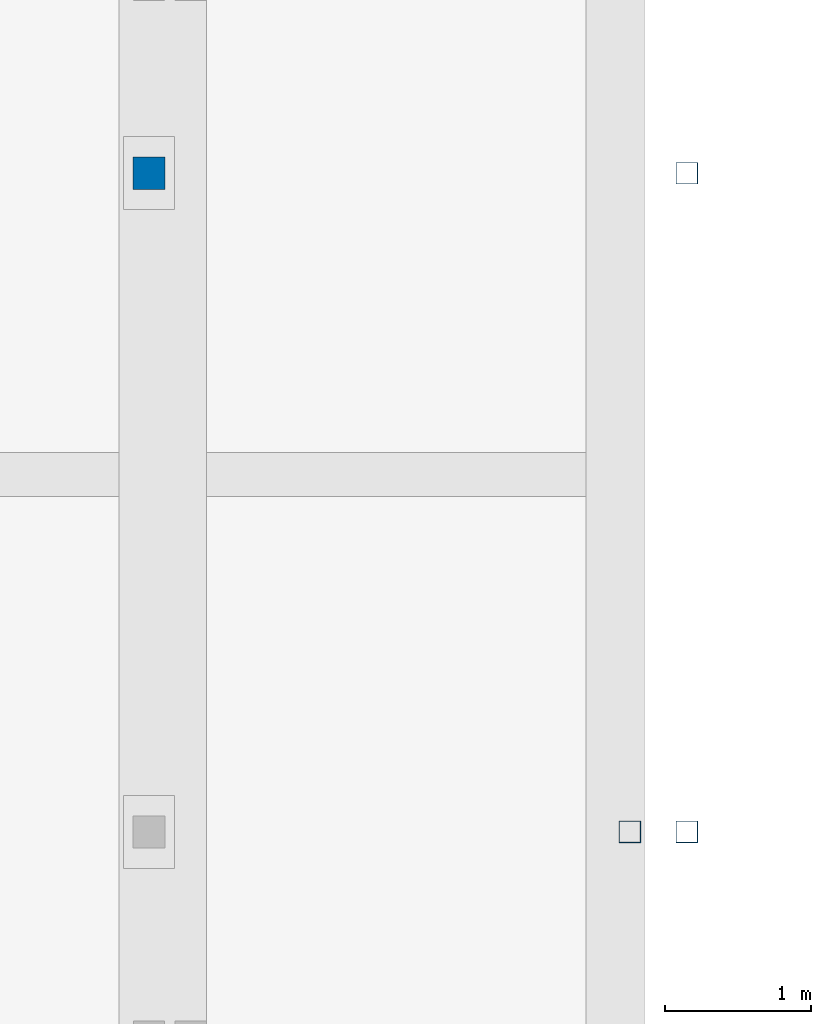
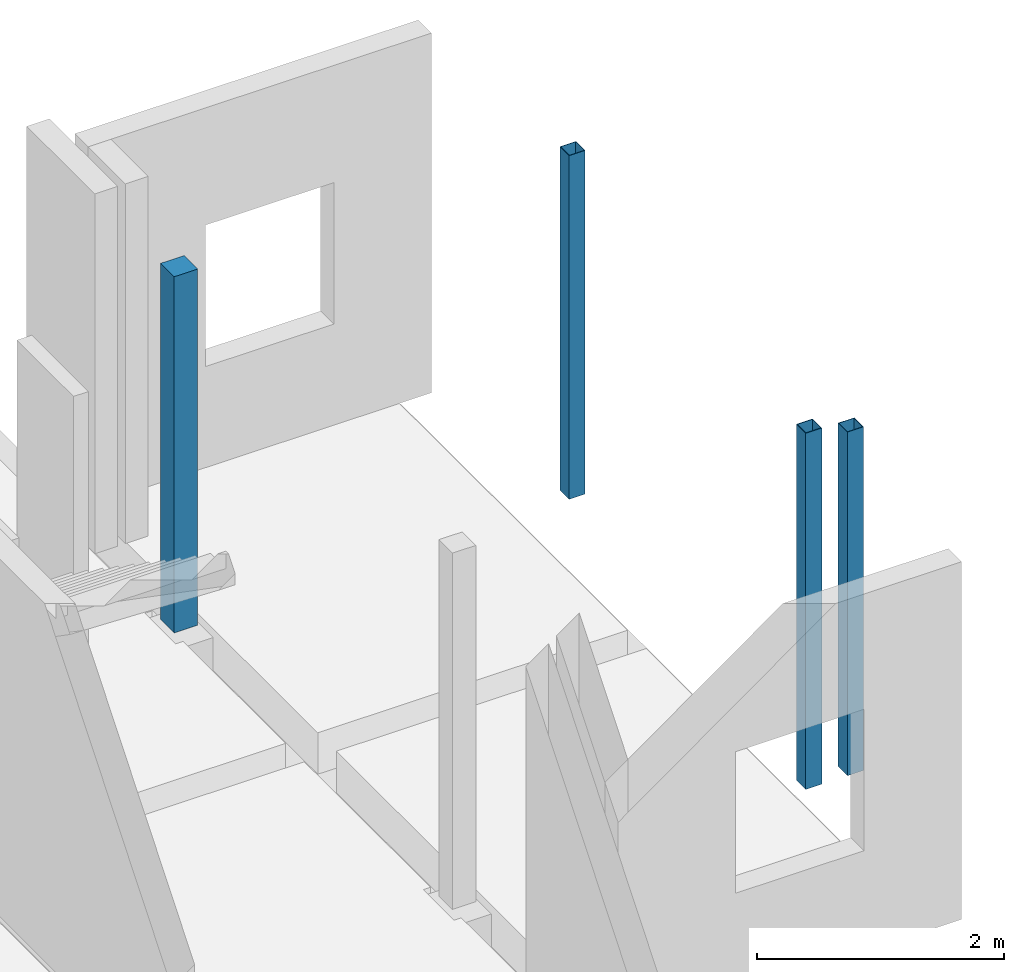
# One storey, part 8 of 17: 4 columns.
"""IFC2X3 building model written with IfcOpenShell, lengths in millimetres."""

from ifc_helpers import new_model, entity, si_unit, converted_unit, derived_unit, direction, frame, frame_2d, origin, place, context, subcontext, project, spatial, polyline, rectangle, outline, extrude, source, transform, mapped, material, material_list, type_object, type_shapes, element, save


model = new_model("IFC2X3")

# Units and contexts
model_context = context("Model", 3, precision=0.01, world=origin(), true_north=direction((6.123031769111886e-17, 1.0)))
body_context = subcontext(model_context, "Body", "Model", "MODEL_VIEW")
ifc_project = project(units=[si_unit("LENGTHUNIT", "METRE", prefix="MILLI"), si_unit("AREAUNIT", "SQUARE_METRE", prefix="MILLI"), si_unit("VOLUMEUNIT", "CUBIC_METRE"), converted_unit("PLANEANGLEUNIT", "DEGREE", entity("IfcPlaneAngleMeasure", 0.017453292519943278), si_unit("PLANEANGLEUNIT", "RADIAN"), dimensions=[0, 0, 0, 0, 0, 0, 0]), si_unit("MASSUNIT", "GRAM", prefix="KILO"), derived_unit("MASSDENSITYUNIT", [(si_unit("MASSUNIT", "GRAM", prefix="KILO"), 1), (si_unit("LENGTHUNIT", "METRE"), -3)]), derived_unit("IONCONCENTRATIONUNIT", [(si_unit("MASSUNIT", "GRAM", prefix="KILO"), 1), (si_unit("LENGTHUNIT", "METRE"), -3)]), derived_unit("MOMENTOFINERTIAUNIT", [(si_unit("LENGTHUNIT", "METRE"), 4)]), si_unit("TIMEUNIT", "SECOND"), si_unit("FREQUENCYUNIT", "HERTZ"), si_unit("THERMODYNAMICTEMPERATUREUNIT", "DEGREE_CELSIUS"), derived_unit("THERMALTRANSMITTANCEUNIT", [(si_unit("MASSUNIT", "GRAM", prefix="KILO"), 1), (si_unit("THERMODYNAMICTEMPERATUREUNIT", "KELVIN"), -1), (si_unit("TIMEUNIT", "SECOND"), -3)]), derived_unit("THERMALCONDUCTANCEUNIT", [(si_unit("MASSUNIT", "GRAM", prefix="KILO"), 1), (si_unit("THERMODYNAMICTEMPERATUREUNIT", "KELVIN"), -1), (si_unit("TIMEUNIT", "SECOND"), -3), (si_unit("LENGTHUNIT", "METRE"), 1)]), derived_unit("VOLUMETRICFLOWRATEUNIT", [(si_unit("LENGTHUNIT", "METRE", prefix="DECI"), 3), (si_unit("TIMEUNIT", "SECOND"), -1)]), derived_unit("MASSFLOWRATEUNIT", [(si_unit("MASSUNIT", "GRAM", prefix="KILO"), 1), (si_unit("TIMEUNIT", "SECOND"), -1)]), derived_unit("ROTATIONALFREQUENCYUNIT", [(si_unit("TIMEUNIT", "SECOND"), -1)]), si_unit("ELECTRICCURRENTUNIT", "AMPERE"), si_unit("ELECTRICVOLTAGEUNIT", "VOLT"), si_unit("POWERUNIT", "WATT"), si_unit("FORCEUNIT", "NEWTON", prefix="KILO"), si_unit("ILLUMINANCEUNIT", "LUX"), si_unit("LUMINOUSFLUXUNIT", "LUMEN"), si_unit("LUMINOUSINTENSITYUNIT", "CANDELA"), si_unit("ENERGYUNIT", "JOULE"), derived_unit("USERDEFINED", [(si_unit("MASSUNIT", "GRAM", prefix="KILO"), -1), (si_unit("LENGTHUNIT", "METRE"), -2), (si_unit("TIMEUNIT", "SECOND"), 3), (si_unit("LUMINOUSFLUXUNIT", "LUMEN"), 1)]), derived_unit("USERDEFINED", [(si_unit("MASSUNIT", "GRAM", prefix="KILO"), 1), (si_unit("TIMEUNIT", "SECOND"), -3), (si_unit("LENGTHUNIT", "METRE"), 3), (si_unit("ELECTRICCURRENTUNIT", "AMPERE"), -2)]), derived_unit("SOUNDPOWERUNIT", [(si_unit("MASSUNIT", "GRAM", prefix="KILO"), 1), (si_unit("TIMEUNIT", "SECOND"), -3), (si_unit("LENGTHUNIT", "METRE"), 2)]), derived_unit("SOUNDPRESSUREUNIT", [(si_unit("MASSUNIT", "GRAM", prefix="KILO"), 1), (si_unit("LENGTHUNIT", "METRE"), -1), (si_unit("TIMEUNIT", "SECOND"), -2)]), derived_unit("LINEARVELOCITYUNIT", [(si_unit("LENGTHUNIT", "METRE"), 1), (si_unit("TIMEUNIT", "SECOND"), -1)]), si_unit("PRESSUREUNIT", "PASCAL"), derived_unit("USERDEFINED", [(si_unit("MASSUNIT", "GRAM", prefix="KILO"), 1), (si_unit("LENGTHUNIT", "METRE"), -2), (si_unit("TIMEUNIT", "SECOND"), -2)]), derived_unit("LINEARFORCEUNIT", [(si_unit("MASSUNIT", "GRAM", prefix="KILO"), 1), (si_unit("TIMEUNIT", "SECOND"), -2)]), derived_unit("PLANARFORCEUNIT", [(si_unit("MASSUNIT", "GRAM", prefix="KILO"), 1), (si_unit("LENGTHUNIT", "METRE"), -1), (si_unit("TIMEUNIT", "SECOND"), -2)]), derived_unit("SPECIFICHEATCAPACITYUNIT", [(si_unit("THERMODYNAMICTEMPERATUREUNIT", "KELVIN"), -1), (si_unit("LENGTHUNIT", "METRE"), 2), (si_unit("TIMEUNIT", "SECOND"), -2)]), derived_unit("HEATFLUXDENSITYUNIT", [(si_unit("MASSUNIT", "GRAM", prefix="KILO"), 1), (si_unit("TIMEUNIT", "SECOND"), -3)]), derived_unit("HEATINGVALUEUNIT", [(si_unit("LENGTHUNIT", "METRE"), 2), (si_unit("TIMEUNIT", "SECOND"), -2)]), derived_unit("VAPORPERMEABILITYUNIT", [(si_unit("LENGTHUNIT", "METRE"), -1), (si_unit("TIMEUNIT", "SECOND"), 1)]), derived_unit("DYNAMICVISCOSITYUNIT", [(si_unit("MASSUNIT", "GRAM", prefix="KILO"), 1), (si_unit("TIMEUNIT", "SECOND"), -1), (si_unit("LENGTHUNIT", "METRE"), -1)]), derived_unit("THERMALEXPANSIONCOEFFICIENTUNIT", [(si_unit("THERMODYNAMICTEMPERATUREUNIT", "KELVIN"), -1)]), derived_unit("MODULUSOFELASTICITYUNIT", [(si_unit("MASSUNIT", "GRAM", prefix="KILO"), 1), (si_unit("LENGTHUNIT", "METRE"), -1), (si_unit("TIMEUNIT", "SECOND"), -2)]), derived_unit("ISOTHERMALMOISTURECAPACITYUNIT", [(si_unit("MASSUNIT", "GRAM", prefix="KILO"), -1), (si_unit("LENGTHUNIT", "METRE"), 3)]), derived_unit("MOISTUREDIFFUSIVITYUNIT", [(si_unit("TIMEUNIT", "SECOND"), -1), (si_unit("LENGTHUNIT", "METRE"), 2)]), derived_unit("MASSPERLENGTHUNIT", [(si_unit("MASSUNIT", "GRAM", prefix="KILO"), 1), (si_unit("LENGTHUNIT", "METRE"), -1)]), derived_unit("THERMALRESISTANCEUNIT", [(si_unit("MASSUNIT", "GRAM", prefix="KILO"), -1), (si_unit("TIMEUNIT", "SECOND"), 3), (si_unit("THERMODYNAMICTEMPERATUREUNIT", "KELVIN"), 1)]), derived_unit("ACCELERATIONUNIT", [(si_unit("LENGTHUNIT", "METRE"), 1), (si_unit("TIMEUNIT", "SECOND"), -2)]), derived_unit("ANGULARVELOCITYUNIT", [(si_unit("TIMEUNIT", "SECOND"), -1), (si_unit("PLANEANGLEUNIT", "RADIAN"), 1)]), derived_unit("LINEARSTIFFNESSUNIT", [(si_unit("MASSUNIT", "GRAM", prefix="KILO"), 1), (si_unit("TIMEUNIT", "SECOND"), -2)]), derived_unit("WARPINGCONSTANTUNIT", [(si_unit("LENGTHUNIT", "METRE"), 6)]), derived_unit("LINEARMOMENTUNIT", [(si_unit("MASSUNIT", "GRAM", prefix="KILO"), 1), (si_unit("LENGTHUNIT", "METRE"), 1), (si_unit("TIMEUNIT", "SECOND"), -2)]), derived_unit("TORQUEUNIT", [(si_unit("MASSUNIT", "GRAM", prefix="KILO"), 1), (si_unit("LENGTHUNIT", "METRE"), 2), (si_unit("TIMEUNIT", "SECOND"), -2)])], contexts=[model_context])

# Site, building, storey
site_placement = place(None, origin())
site = spatial("IfcSite", under=ifc_project, at=site_placement, Name="Default", CompositionType="ELEMENT")
building_placement = place(site_placement, origin())
building = spatial("IfcBuilding", under=site, at=building_placement, CompositionType="ELEMENT")
storey_placement = place(building_placement, frame((0.0, 0.0, -70.0)))
storey = spatial("IfcBuildingStorey", under=building, at=storey_placement, Name="F1 begg (bk ruwe vloer)", CompositionType="ELEMENT", Elevation=-69.99999999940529)

# Columns
ifc_material_1 = material(Name="Concrete - Cast-in-Place - C30/37")
ifc_material_2 = material(Name="Metal - Steel - S275 J0H (standaard-kokers/buizen)")
ifc_material_list = material_list([ifc_material_1, ifc_material_2])
column_type_1 = type_object("IfcColumnType", Name="btk_staal - Koker + beton:K220x220x8", PredefinedType="COLUMN", material=ifc_material_list)
shared_shape_1 = source(origin(), body_context, "Body", "SweptSolid", [
    extrude(rectangle(XDim=204.00000000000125, YDim=203.99999999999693, at=frame_2d((2.1671553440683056e-12, -4.334310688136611e-12), x_axis=(1.0, 0.0))), frame((30756.977194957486, 39708.50696210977, -70.0), z_axis=(0.0, 0.0, 1.0), x_axis=(-1.0, 0.0, 0.0)), (0.0, 0.0, 1.0), 3524.9999999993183),
    extrude(outline(polyline([(-110.0, -110.0), (110.0, -110.0), (110.0, 110.0), (-110.0, 110.0), (-110.0, -110.0)]), holes=[polyline([(-102.0, -102.0), (-102.0, 102.0), (102.0, 102.0), (102.0, -102.0), (-102.0, -102.0)])]), frame((30756.977194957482, 39708.50696210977, -70.0), z_axis=(0.0, 0.0, 1.0), x_axis=(-1.0, 0.0, 0.0)), (0.0, 0.0, 1.0), 3524.9999999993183),
])
type_shapes(column_type_1, [shared_shape_1])
column_1_placement = place(storey_placement, frame((0.0, 0.0, 70.0)))
element("IfcColumn", 1, at=column_1_placement, inside=storey, type_object=column_type_1, material=ifc_material_list, Name="btk_staal - Koker + beton:K220x220x8", ObjectType="btk_staal - Koker + beton:K220x220x8", context=body_context, shape_type="MappedRepresentation", body=[
    mapped(shared_shape_1, transform((0.0, 0.0, 0.0), scale=1.0)),
])
column_type_2 = type_object("IfcColumnType", Name="btk_staal - Koker:K150x150x5.0", PredefinedType="COLUMN", material=ifc_material_2)
shared_shape_2 = source(origin(), body_context, "Body", "SweptSolid", [
    extrude(outline(polyline([(-75.0, -75.0), (75.0, -75.0), (75.0, 75.0), (-75.0, 75.0), (-75.0, -75.0)]), holes=[polyline([(-70.0, -70.0), (-70.0, 70.0), (70.0, 70.0), (70.0, -70.0), (-70.0, -70.0)])]), frame((34049.977194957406, 35197.84751726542, -70.0), z_axis=(0.0, 0.0, 1.0), x_axis=(-1.0, 0.0, 0.0)), (0.0, 0.0, 1.0), 3524.9999999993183),
])
type_shapes(column_type_2, [shared_shape_2])
column_2_placement = place(storey_placement, frame((0.0, 0.0, 70.0)))
element("IfcColumn", 2, at=column_2_placement, inside=storey, type_object=column_type_2, material=ifc_material_2, Name="btk_staal - Koker:K150x150x5.0", ObjectType="btk_staal - Koker:K150x150x5.0", context=body_context, shape_type="MappedRepresentation", body=[
    mapped(shared_shape_2, transform((0.0, 0.0, 0.0), scale=1.0)),
])
column_type_3 = type_object("IfcColumnType", Name="btk_staal - Koker:K150x150x5.0", PredefinedType="COLUMN", material=ifc_material_2)
shared_shape_3 = source(origin(), body_context, "Body", "SweptSolid", [
    extrude(outline(polyline([(-75.0, -75.0), (75.0, -75.0), (75.0, 75.0), (-75.0, 75.0), (-75.0, -75.0)]), holes=[polyline([(-70.0, -70.0), (-70.0, 70.0), (70.0, 70.0), (70.0, -70.0), (-70.0, -70.0)])]), frame((34439.97719495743, 35197.84751726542, -70.0), z_axis=(0.0, 0.0, 1.0), x_axis=(-1.0, 0.0, 0.0)), (0.0, 0.0, 1.0), 3399.999999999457),
])
type_shapes(column_type_3, [shared_shape_3])
column_3_placement = place(storey_placement, frame((0.0, 0.0, 70.0)))
element("IfcColumn", 3, at=column_3_placement, inside=storey, type_object=column_type_3, material=ifc_material_2, Name="btk_staal - Koker:K150x150x5.0", ObjectType="btk_staal - Koker:K150x150x5.0", context=body_context, shape_type="MappedRepresentation", body=[
    mapped(shared_shape_3, transform((0.0, 0.0, 0.0), scale=1.0)),
])
column_type_4 = type_object("IfcColumnType", Name="btk_staal - Koker:K150x150x5.0", PredefinedType="COLUMN", material=ifc_material_2)
shared_shape_4 = source(origin(), body_context, "Body", "SweptSolid", [
    extrude(outline(polyline([(-75.0, -75.0), (75.0, -75.0), (75.0, 75.0), (-75.0, 75.0), (-75.0, -75.0)]), holes=[polyline([(-70.0, -70.0), (-70.0, 70.0), (70.0, 70.0), (70.0, -70.0), (-70.0, -70.0)])]), frame((34439.97719495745, 39708.5172330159, -70.0), z_axis=(0.0, 0.0, 1.0), x_axis=(-1.0, 0.0, 0.0)), (0.0, 0.0, 1.0), 3399.999999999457),
])
type_shapes(column_type_4, [shared_shape_4])
column_4_placement = place(storey_placement, frame((0.0, 0.0, 70.0)))
element("IfcColumn", 4, at=column_4_placement, inside=storey, type_object=column_type_4, material=ifc_material_2, Name="btk_staal - Koker:K150x150x5.0", ObjectType="btk_staal - Koker:K150x150x5.0", context=body_context, shape_type="MappedRepresentation", body=[
    mapped(shared_shape_4, transform((0.0, 0.0, 0.0), scale=1.0)),
])

save(model, "model.ifc")
